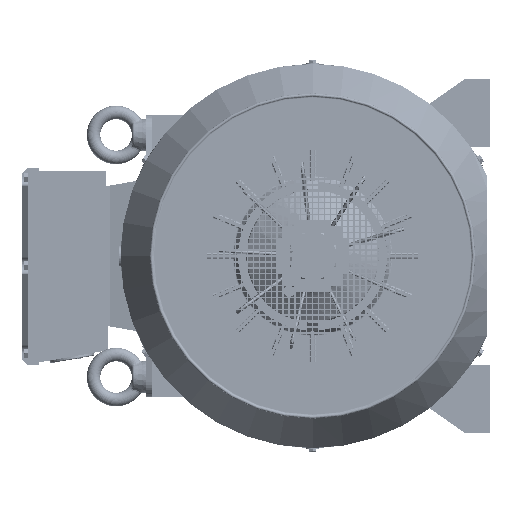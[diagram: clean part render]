
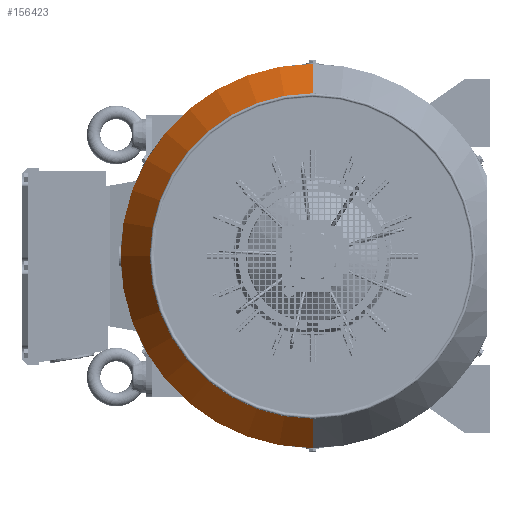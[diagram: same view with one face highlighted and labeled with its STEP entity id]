
A CAD part, left-side view. The second image highlights one B-rep face of the part: STEP entity #156423.
In plain terms, the highlighted conical face has half-angle 30 degrees and reference radius 289 mm.
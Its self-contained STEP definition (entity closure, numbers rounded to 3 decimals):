
#885 = DIRECTION ( 'NONE',  ( 0.866, 0., -0.5 ) ) ;
#911 = VECTOR ( 'NONE', #885, 1000. ) ;
#3701 = ORIENTED_EDGE ( 'NONE', *, *, #17283, .F. ) ;
#17283 = EDGE_CURVE ( 'NONE', #87837, #153804, #324467, .T. ) ;
#19614 = FACE_OUTER_BOUND ( 'NONE', #273603, .T. ) ;
#30388 = EDGE_CURVE ( 'NONE', #273174, #95008, #246303, .T. ) ;
#34813 = AXIS2_PLACEMENT_3D ( 'NONE', #158316, #131164, #312943 ) ;
#40038 = DIRECTION ( 'NONE',  ( 0., 0., -1. ) ) ;
#58027 = EDGE_CURVE ( 'NONE', #95008, #153804, #174330, .T. ) ;
#78715 = AXIS2_PLACEMENT_3D ( 'NONE', #298291, #220197, #40038 ) ;
#87837 = VERTEX_POINT ( 'NONE', #318476 ) ;
#93865 = CARTESIAN_POINT ( 'NONE',  ( -572.074, -36.814, 0. ) ) ;
#95008 = VERTEX_POINT ( 'NONE', #159240 ) ;
#117260 = CARTESIAN_POINT ( 'NONE',  ( -572.074, -36.814, 341. ) ) ;
#117810 = CARTESIAN_POINT ( 'NONE',  ( -662.141, -36.814, -289. ) ) ;
#126701 = CARTESIAN_POINT ( 'NONE',  ( -662.141, -36.814, 289. ) ) ;
#131164 = DIRECTION ( 'NONE',  ( 1., 0., 0. ) ) ;
#150184 = ORIENTED_EDGE ( 'NONE', *, *, #58027, .T. ) ;
#153804 = VERTEX_POINT ( 'NONE', #117260 ) ;
#156305 = VECTOR ( 'NONE', #333931, 1000. ) ;
#156423 = ADVANCED_FACE ( 'NONE', ( #19614 ), #306722, .T. ) ;
#157099 = LINE ( 'NONE', #259106, #911 ) ;
#158316 = CARTESIAN_POINT ( 'NONE',  ( -662.141, -36.814, 0. ) ) ;
#159240 = CARTESIAN_POINT ( 'NONE',  ( -662.141, -36.814, 289. ) ) ;
#174330 = LINE ( 'NONE', #126701, #156305 ) ;
#178040 = AXIS2_PLACEMENT_3D ( 'NONE', #93865, #302792, #331577 ) ;
#198414 = EDGE_CURVE ( 'NONE', #273174, #87837, #157099, .T. ) ;
#220197 = DIRECTION ( 'NONE',  ( 1., 0., 0. ) ) ;
#246303 = CIRCLE ( 'NONE', #34813, 289. ) ;
#259106 = CARTESIAN_POINT ( 'NONE',  ( -662.141, -36.814, -289. ) ) ;
#273174 = VERTEX_POINT ( 'NONE', #117810 ) ;
#273603 = EDGE_LOOP ( 'NONE', ( #285496, #150184, #3701, #297144 ) ) ;
#285496 = ORIENTED_EDGE ( 'NONE', *, *, #30388, .T. ) ;
#297144 = ORIENTED_EDGE ( 'NONE', *, *, #198414, .F. ) ;
#298291 = CARTESIAN_POINT ( 'NONE',  ( -662.141, -36.814, 0. ) ) ;
#302792 = DIRECTION ( 'NONE',  ( 1., 0., 0. ) ) ;
#306722 = CONICAL_SURFACE ( 'NONE', #78715, 289., 0.524 ) ;
#312943 = DIRECTION ( 'NONE',  ( 0., 0., -1. ) ) ;
#318476 = CARTESIAN_POINT ( 'NONE',  ( -572.074, -36.814, -341. ) ) ;
#324467 = CIRCLE ( 'NONE', #178040, 341. ) ;
#331577 = DIRECTION ( 'NONE',  ( 0., 0., -1. ) ) ;
#333931 = DIRECTION ( 'NONE',  ( 0.866, 0., 0.5 ) ) ;
